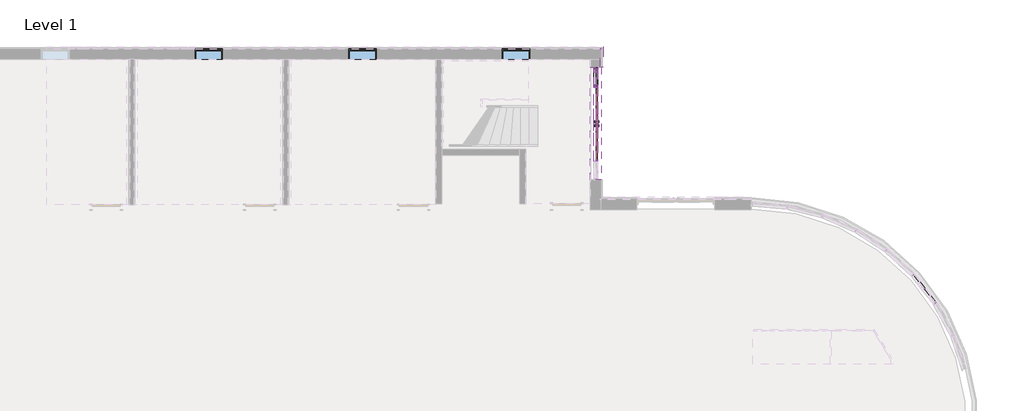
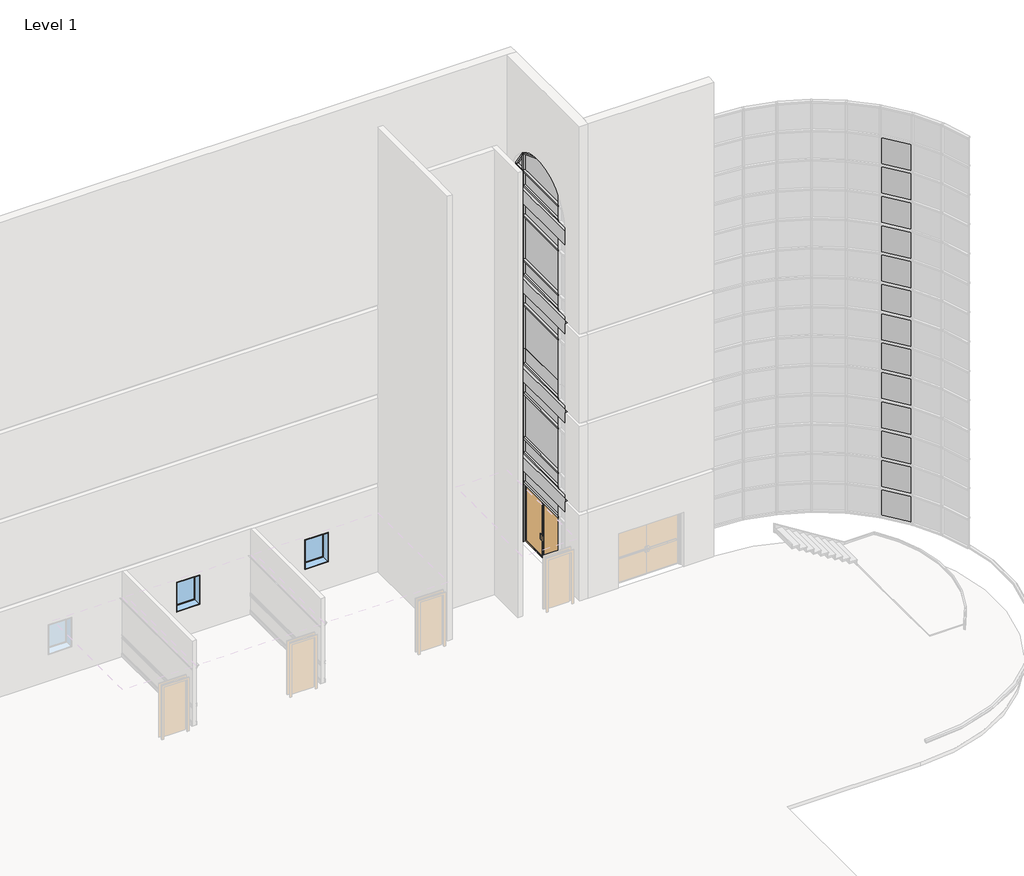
# One storey, part 12 of 20: 58 members, 42 plates, 3 proxies, 3 windows, 1 door.
"""IFC4 building model written with IfcOpenShell, lengths in millimetres."""

from ifc_helpers import new_model, si_unit, frame, origin, place, context, project, spatial, polyline, outline, extrude, transform, mapped, element, save
from components import door_curtain_wall_double_storefront_door_curtain_wall_double_88ba86d8, member_f0fea5a5, member_ee409385, member_caa35c07, member_51170729, member_d60e8053, member_89bfb2f9, member_aaa03826, member_c24abd12, member_55ed3d74, member_94fbf6e3, member_27758863, member_da55b54e, member_0b7646a3, member_dad99500, member_2fae0574, system_panel_glazed_da602fa6, system_panel_glazed_77fd207e, system_panel_glazed_0abf4587, system_panel_glazed_c8e71bd0, system_panel_glazed_bf223ca8, system_panel_glazed_20f89685, system_panel_glazed_orange_a178916c, system_panel_glazed_36969878, system_panel_glazed_a7a8c7fc, system_panel_glazed_38e9afd9, system_panel_glazed_db8a70c9, system_panel_glazed_89dc3443, system_panel_glazed_e97e1c8c, system_panel_glazed_0195c96e, window_15c49d37

model = new_model("IFC4")

# Units and contexts
model_context = context("Model", 3, world=origin())
ifc_project = project(units=[si_unit("LENGTHUNIT", "METRE", prefix="MILLI")], contexts=[model_context])

# Site, building, storey
site = spatial("IfcSite", under=ifc_project)
building = spatial("IfcBuilding", under=site)
storey = spatial("IfcBuildingStorey", under=building, Name="Level 1", Elevation=0.0)

# Proxies
placement = place(None, origin())
element("IfcBuildingElementProxy", 1, Name="Reveals", at=placement, inside=storey, context=model_context, shape_type="SweptSolid", body=[
    extrude(outline(polyline([(13035.7339721, 5418.9898319), (13127.8089721, 5418.9898319), (13127.8089721, 4876.0648319), (13035.7339721, 4783.9898319), (13035.7339721, 5418.9898319)])), frame((0.0, 0.0, 1625.6), z_axis=(0.0, 0.0, 1.0), x_axis=(1.0, 0.0, 0.0)), (0.0, 0.0, 1.0), 67.7333333),
    extrude(outline(polyline([(13035.7339721, 9660.7898319), (13127.8089721, 9752.8648319), (13127.8089721, 9076.5898319), (13035.7339721, 9076.5898319), (13035.7339721, 9660.7898319)])), frame((0.0, 0.0, 1625.6), z_axis=(0.0, 0.0, 1.0), x_axis=(1.0, 0.0, 0.0)), (0.0, 0.0, 1.0), 67.7333333),
])
element("IfcBuildingElementProxy", 2, Name="Reveals", at=placement, inside=storey, context=model_context, shape_type="SweptSolid", body=[
    extrude(outline(polyline([(13035.7339721, 5418.9898319), (13127.8089721, 5418.9898319), (13127.8089721, 4876.0648319), (13035.7339721, 4783.9898319), (13035.7339721, 5418.9898319)])), frame((0.0, 0.0, 2235.2), z_axis=(0.0, 0.0, 1.0), x_axis=(1.0, 0.0, 0.0)), (0.0, 0.0, 1.0), 67.7333333),
    extrude(outline(polyline([(13035.7339721, 9660.7898319), (13127.8089721, 9752.8648319), (13127.8089721, 9076.5898319), (13035.7339721, 9076.5898319), (13035.7339721, 9660.7898319)])), frame((0.0, 0.0, 2235.2), z_axis=(0.0, 0.0, 1.0), x_axis=(1.0, 0.0, 0.0)), (0.0, 0.0, 1.0), 67.7333333),
])
element("IfcBuildingElementProxy", 3, Name="Reveals", at=placement, inside=storey, context=model_context, shape_type="SweptSolid", body=[
    extrude(outline(polyline([(13035.7339721, 5418.9898319), (13127.8089721, 5418.9898319), (13127.8089721, 4876.0648319), (13035.7339721, 4783.9898319), (13035.7339721, 5418.9898319)])), frame((0.0, 0.0, 2844.8), z_axis=(0.0, 0.0, 1.0), x_axis=(1.0, 0.0, 0.0)), (0.0, 0.0, 1.0), 67.7333333),
    extrude(outline(polyline([(13035.7339721, 9660.7898319), (13127.8089721, 9752.8648319), (13127.8089721, 9076.5898319), (13035.7339721, 9076.5898319), (13035.7339721, 9660.7898319)])), frame((0.0, 0.0, 2844.8), z_axis=(0.0, 0.0, 1.0), x_axis=(1.0, 0.0, 0.0)), (0.0, 0.0, 1.0), 67.7333333),
])

# Door
door_curtain_wall_double_storefront_door_curtain_wall_double_shape = door_curtain_wall_double_storefront_door_curtain_wall_double_88ba86d8(model_context)
element("IfcDoor", 4, ObjectType="Door-Curtain-Wall-Double-Storefront : Door-Curtain-Wall-Double-Storefront", at=placement, inside=storey, context=model_context, shape_type="MappedRepresentation", body=[
    mapped(door_curtain_wall_double_storefront_door_curtain_wall_double_shape, transform((12884.9214721, 7247.7898319, 0.0), x_axis=(0.0, 1.0, 0.0), y_axis=(-1.0, 0.0, 0.0), z_axis=(0.0, 0.0, 1.0))),
])

# Members
member_shape = member_f0fea5a5(model_context)
element("IfcMember", 5, ObjectType="Rectangular Mullion : 2.5\" x 5\" rectangular", at=placement, inside=storey, context=model_context, shape_type="MappedRepresentation", body=[
    mapped(member_shape, transform((12884.9214721, 8466.9898319, 0.0), x_axis=(0.0, 1.0, 0.0), y_axis=(1.0, 0.0, 0.0), z_axis=(0.0, 0.0, -1.0))),
])
member_2_shape = member_ee409385(model_context)
element("IfcMember", 6, ObjectType="Rectangular Mullion : 2.5\" x 5\" rectangular", at=placement, inside=storey, context=model_context, shape_type="MappedRepresentation", body=[
    mapped(member_2_shape, transform((12884.9214721, 9076.5898319, 0.0), x_axis=(0.0, 1.0, 0.0), y_axis=(1.0, 0.0, 0.0), z_axis=(0.0, 0.0, -1.0))),
])
member_3_shape = member_caa35c07(model_context)
element("IfcMember", 7, ObjectType="Rectangular Mullion : 2.5\" x 5\" rectangular", at=placement, inside=storey, context=model_context, shape_type="MappedRepresentation", body=[
    mapped(member_3_shape, transform((12884.9214721, 8466.9898319, 15240.0), x_axis=(0.0, 1.0, 0.0), y_axis=(1.0, 0.0, 0.0), z_axis=(0.0, 0.0, -1.0))),
])
member_4_shape = member_51170729(model_context)
element("IfcMember", 8, ObjectType="Rectangular Mullion : 2.5\" x 5\" rectangular", at=placement, inside=storey, context=model_context, shape_type="MappedRepresentation", body=[
    mapped(member_4_shape, transform((12884.9214721, 8466.9898319, 13411.2), x_axis=(0.0, 1.0, 0.0), y_axis=(1.0, 0.0, 0.0), z_axis=(0.0, 0.0, -1.0))),
])
element("IfcMember", 9, ObjectType="Rectangular Mullion : 2.5\" x 5\" rectangular", at=placement, inside=storey, context=model_context, shape_type="MappedRepresentation", body=[
    mapped(member_4_shape, transform((12884.9214721, 8466.9898319, 9753.6), x_axis=(0.0, 1.0, 0.0), y_axis=(1.0, 0.0, 0.0), z_axis=(0.0, 0.0, -1.0))),
])
element("IfcMember", 10, ObjectType="Rectangular Mullion : 2.5\" x 5\" rectangular", at=placement, inside=storey, context=model_context, shape_type="MappedRepresentation", body=[
    mapped(member_4_shape, transform((12884.9214721, 8466.9898319, 6096.0), x_axis=(0.0, 1.0, 0.0), y_axis=(1.0, 0.0, 0.0), z_axis=(0.0, 0.0, -1.0))),
])
element("IfcMember", 11, ObjectType="Rectangular Mullion : 2.5\" x 5\" rectangular", at=placement, inside=storey, context=model_context, shape_type="MappedRepresentation", body=[
    mapped(member_4_shape, transform((12884.9214721, 8466.9898319, 2438.4), x_axis=(0.0, 1.0, 0.0), y_axis=(1.0, 0.0, 0.0), z_axis=(0.0, 0.0, -1.0))),
])
member_5_shape = member_d60e8053(model_context)
element("IfcMember", 12, ObjectType="Rectangular Mullion : 2.5\" x 5\" rectangular", at=placement, inside=storey, context=model_context, shape_type="MappedRepresentation", body=[
    mapped(member_5_shape, transform((12884.9214721, 8466.9898319, 11582.4), x_axis=(0.0, 1.0, 0.0), y_axis=(1.0, 0.0, 0.0), z_axis=(0.0, 0.0, -1.0))),
])
element("IfcMember", 13, ObjectType="Rectangular Mullion : 2.5\" x 5\" rectangular", at=placement, inside=storey, context=model_context, shape_type="MappedRepresentation", body=[
    mapped(member_5_shape, transform((12884.9214721, 8466.9898319, 4267.2), x_axis=(0.0, 1.0, 0.0), y_axis=(1.0, 0.0, 0.0), z_axis=(0.0, 0.0, -1.0))),
])
element("IfcMember", 14, ObjectType="Rectangular Mullion : 2.5\" x 5\" rectangular", at=placement, inside=storey, context=model_context, shape_type="MappedRepresentation", body=[
    mapped(member_5_shape, transform((12884.9214721, 8466.9898319, 7924.8), x_axis=(0.0, 1.0, 0.0), y_axis=(1.0, 0.0, 0.0), z_axis=(0.0, 0.0, -1.0))),
])
element("IfcMember", 15, ObjectType="Rectangular Mullion : 2.5\" x 5\" rectangular", at=placement, inside=storey, context=model_context, shape_type="MappedRepresentation", body=[
    mapped(member_4_shape, transform((12884.9214721, 8466.9898319, 14598.65), x_axis=(0.0, 1.0, 0.0), y_axis=(1.0, 0.0, 0.0), z_axis=(0.0, 0.0, -1.0))),
])
element("IfcMember", 16, ObjectType="Rectangular Mullion : 2.5\" x 5\" rectangular", at=placement, inside=storey, context=model_context, shape_type="MappedRepresentation", body=[
    mapped(member_4_shape, transform((12884.9214721, 8466.9898319, 10941.05), x_axis=(0.0, 1.0, 0.0), y_axis=(1.0, 0.0, 0.0), z_axis=(0.0, 0.0, -1.0))),
])
element("IfcMember", 17, ObjectType="Rectangular Mullion : 2.5\" x 5\" rectangular", at=placement, inside=storey, context=model_context, shape_type="MappedRepresentation", body=[
    mapped(member_4_shape, transform((12884.9214721, 8466.9898319, 3625.85), x_axis=(0.0, 1.0, 0.0), y_axis=(1.0, 0.0, 0.0), z_axis=(0.0, 0.0, -1.0))),
])
element("IfcMember", 18, ObjectType="Rectangular Mullion : 2.5\" x 5\" rectangular", at=placement, inside=storey, context=model_context, shape_type="MappedRepresentation", body=[
    mapped(member_4_shape, transform((12884.9214721, 8466.9898319, 7283.45), x_axis=(0.0, 1.0, 0.0), y_axis=(1.0, 0.0, 0.0), z_axis=(0.0, 0.0, -1.0))),
])
member_6_shape = member_89bfb2f9(model_context)
element("IfcMember", 19, ObjectType="Rectangular Mullion : 2.5\" x 5\" rectangular", at=placement, inside=storey, context=model_context, shape_type="MappedRepresentation", body=[
    mapped(member_6_shape, transform((12884.9214721, 8435.2398319, 2438.4), x_axis=(0.0, 0.0, 1.0), y_axis=(1.0, 0.0, 0.0), z_axis=(0.0, 1.0, 0.0))),
])
element("IfcMember", 20, ObjectType="Rectangular Mullion : 2.5\" x 5\" rectangular", at=placement, inside=storey, context=model_context, shape_type="MappedRepresentation", body=[
    mapped(member_6_shape, transform((12884.9214721, 8435.2398319, 4267.2), x_axis=(0.0, 0.0, 1.0), y_axis=(1.0, 0.0, 0.0), z_axis=(0.0, 1.0, 0.0))),
])
element("IfcMember", 21, ObjectType="Rectangular Mullion : 2.5\" x 5\" rectangular", at=placement, inside=storey, context=model_context, shape_type="MappedRepresentation", body=[
    mapped(member_6_shape, transform((12884.9214721, 8435.2398319, 6096.0), x_axis=(0.0, 0.0, 1.0), y_axis=(1.0, 0.0, 0.0), z_axis=(0.0, 1.0, 0.0))),
])
element("IfcMember", 22, ObjectType="Rectangular Mullion : 2.5\" x 5\" rectangular", at=placement, inside=storey, context=model_context, shape_type="MappedRepresentation", body=[
    mapped(member_6_shape, transform((12884.9214721, 8435.2398319, 7315.2), x_axis=(0.0, 0.0, 1.0), y_axis=(1.0, 0.0, 0.0), z_axis=(0.0, 1.0, 0.0))),
])
element("IfcMember", 23, ObjectType="Rectangular Mullion : 2.5\" x 5\" rectangular", at=placement, inside=storey, context=model_context, shape_type="MappedRepresentation", body=[
    mapped(member_6_shape, transform((12884.9214721, 8435.2398319, 6705.6), x_axis=(0.0, 0.0, 1.0), y_axis=(1.0, 0.0, 0.0), z_axis=(0.0, 1.0, 0.0))),
])
element("IfcMember", 24, ObjectType="Rectangular Mullion : 2.5\" x 5\" rectangular", at=placement, inside=storey, context=model_context, shape_type="MappedRepresentation", body=[
    mapped(member_6_shape, transform((12884.9214721, 8435.2398319, 3657.6), x_axis=(0.0, 0.0, 1.0), y_axis=(1.0, 0.0, 0.0), z_axis=(0.0, 1.0, 0.0))),
])
element("IfcMember", 25, ObjectType="Rectangular Mullion : 2.5\" x 5\" rectangular", at=placement, inside=storey, context=model_context, shape_type="MappedRepresentation", body=[
    mapped(member_6_shape, transform((12884.9214721, 8435.2398319, 3048.0), x_axis=(0.0, 0.0, 1.0), y_axis=(1.0, 0.0, 0.0), z_axis=(0.0, 1.0, 0.0))),
])
element("IfcMember", 26, ObjectType="Rectangular Mullion : 2.5\" x 5\" rectangular", at=placement, inside=storey, context=model_context, shape_type="MappedRepresentation", body=[
    mapped(member_6_shape, transform((12884.9214721, 8435.2398319, 9753.6), x_axis=(0.0, 0.0, 1.0), y_axis=(1.0, 0.0, 0.0), z_axis=(0.0, 1.0, 0.0))),
])
element("IfcMember", 27, ObjectType="Rectangular Mullion : 2.5\" x 5\" rectangular", at=placement, inside=storey, context=model_context, shape_type="MappedRepresentation", body=[
    mapped(member_6_shape, transform((12884.9214721, 8435.2398319, 10363.2), x_axis=(0.0, 0.0, 1.0), y_axis=(1.0, 0.0, 0.0), z_axis=(0.0, 1.0, 0.0))),
])
element("IfcMember", 28, ObjectType="Rectangular Mullion : 2.5\" x 5\" rectangular", at=placement, inside=storey, context=model_context, shape_type="MappedRepresentation", body=[
    mapped(member_6_shape, transform((12884.9214721, 8435.2398319, 10972.8), x_axis=(0.0, 0.0, 1.0), y_axis=(1.0, 0.0, 0.0), z_axis=(0.0, 1.0, 0.0))),
])
element("IfcMember", 29, ObjectType="Rectangular Mullion : 2.5\" x 5\" rectangular", at=placement, inside=storey, context=model_context, shape_type="MappedRepresentation", body=[
    mapped(member_6_shape, transform((12884.9214721, 8435.2398319, 11582.4), x_axis=(0.0, 0.0, 1.0), y_axis=(1.0, 0.0, 0.0), z_axis=(0.0, 1.0, 0.0))),
])
element("IfcMember", 30, ObjectType="Rectangular Mullion : 2.5\" x 5\" rectangular", at=placement, inside=storey, context=model_context, shape_type="MappedRepresentation", body=[
    mapped(member_6_shape, transform((12884.9214721, 8435.2398319, 13411.2), x_axis=(0.0, 0.0, 1.0), y_axis=(1.0, 0.0, 0.0), z_axis=(0.0, 1.0, 0.0))),
])
element("IfcMember", 31, ObjectType="Rectangular Mullion : 2.5\" x 5\" rectangular", at=placement, inside=storey, context=model_context, shape_type="MappedRepresentation", body=[
    mapped(member_6_shape, transform((12884.9214721, 8435.2398319, 14020.8), x_axis=(0.0, 0.0, 1.0), y_axis=(1.0, 0.0, 0.0), z_axis=(0.0, 1.0, 0.0))),
])
element("IfcMember", 32, ObjectType="Rectangular Mullion : 2.5\" x 5\" rectangular", at=placement, inside=storey, context=model_context, shape_type="MappedRepresentation", body=[
    mapped(member_6_shape, transform((12884.9214721, 8435.2398319, 14630.4), x_axis=(0.0, 0.0, 1.0), y_axis=(1.0, 0.0, 0.0), z_axis=(0.0, 1.0, 0.0))),
])
element("IfcMember", 33, ObjectType="Rectangular Mullion : 2.5\" x 5\" rectangular", at=placement, inside=storey, context=model_context, shape_type="MappedRepresentation", body=[
    mapped(member_6_shape, transform((12884.9214721, 8435.2398319, 15240.0), x_axis=(0.0, 0.0, 1.0), y_axis=(1.0, 0.0, 0.0), z_axis=(0.0, 1.0, 0.0))),
])
member_7_shape = member_aaa03826(model_context)
element("IfcMember", 34, ObjectType="Rectangular Mullion : 2.5\" x 5\" rectangular", at=placement, inside=storey, context=model_context, shape_type="MappedRepresentation", body=[
    mapped(member_7_shape, transform((12884.9214721, 9013.0898319, 2438.4), x_axis=(0.0, 0.0, 1.0), y_axis=(1.0, 0.0, 0.0), z_axis=(0.0, 1.0, 0.0))),
])
element("IfcMember", 35, ObjectType="Rectangular Mullion : 2.5\" x 5\" rectangular", at=placement, inside=storey, context=model_context, shape_type="MappedRepresentation", body=[
    mapped(member_7_shape, transform((12884.9214721, 9013.0898319, 4267.2), x_axis=(0.0, 0.0, 1.0), y_axis=(1.0, 0.0, 0.0), z_axis=(0.0, 1.0, 0.0))),
])
element("IfcMember", 36, ObjectType="Rectangular Mullion : 2.5\" x 5\" rectangular", at=placement, inside=storey, context=model_context, shape_type="MappedRepresentation", body=[
    mapped(member_7_shape, transform((12884.9214721, 9013.0898319, 6096.0), x_axis=(0.0, 0.0, 1.0), y_axis=(1.0, 0.0, 0.0), z_axis=(0.0, 1.0, 0.0))),
])
element("IfcMember", 37, ObjectType="Rectangular Mullion : 2.5\" x 5\" rectangular", at=placement, inside=storey, context=model_context, shape_type="MappedRepresentation", body=[
    mapped(member_7_shape, transform((12884.9214721, 9013.0898319, 7315.2), x_axis=(0.0, 0.0, 1.0), y_axis=(1.0, 0.0, 0.0), z_axis=(0.0, 1.0, 0.0))),
])
element("IfcMember", 38, ObjectType="Rectangular Mullion : 2.5\" x 5\" rectangular", at=placement, inside=storey, context=model_context, shape_type="MappedRepresentation", body=[
    mapped(member_7_shape, transform((12884.9214721, 9013.0898319, 6705.6), x_axis=(0.0, 0.0, 1.0), y_axis=(1.0, 0.0, 0.0), z_axis=(0.0, 1.0, 0.0))),
])
element("IfcMember", 39, ObjectType="Rectangular Mullion : 2.5\" x 5\" rectangular", at=placement, inside=storey, context=model_context, shape_type="MappedRepresentation", body=[
    mapped(member_7_shape, transform((12884.9214721, 9013.0898319, 3657.6), x_axis=(0.0, 0.0, 1.0), y_axis=(1.0, 0.0, 0.0), z_axis=(0.0, 1.0, 0.0))),
])
element("IfcMember", 40, ObjectType="Rectangular Mullion : 2.5\" x 5\" rectangular", at=placement, inside=storey, context=model_context, shape_type="MappedRepresentation", body=[
    mapped(member_7_shape, transform((12884.9214721, 9013.0898319, 3048.0), x_axis=(0.0, 0.0, 1.0), y_axis=(1.0, 0.0, 0.0), z_axis=(0.0, 1.0, 0.0))),
])
element("IfcMember", 41, ObjectType="Rectangular Mullion : 2.5\" x 5\" rectangular", at=placement, inside=storey, context=model_context, shape_type="MappedRepresentation", body=[
    mapped(member_7_shape, transform((12884.9214721, 9013.0898319, 9753.6), x_axis=(0.0, 0.0, 1.0), y_axis=(1.0, 0.0, 0.0), z_axis=(0.0, 1.0, 0.0))),
])
element("IfcMember", 42, ObjectType="Rectangular Mullion : 2.5\" x 5\" rectangular", at=placement, inside=storey, context=model_context, shape_type="MappedRepresentation", body=[
    mapped(member_7_shape, transform((12884.9214721, 9013.0898319, 10363.2), x_axis=(0.0, 0.0, 1.0), y_axis=(1.0, 0.0, 0.0), z_axis=(0.0, 1.0, 0.0))),
])
element("IfcMember", 43, ObjectType="Rectangular Mullion : 2.5\" x 5\" rectangular", at=placement, inside=storey, context=model_context, shape_type="MappedRepresentation", body=[
    mapped(member_7_shape, transform((12884.9214721, 9013.0898319, 10972.8), x_axis=(0.0, 0.0, 1.0), y_axis=(1.0, 0.0, 0.0), z_axis=(0.0, 1.0, 0.0))),
])
element("IfcMember", 44, ObjectType="Rectangular Mullion : 2.5\" x 5\" rectangular", at=placement, inside=storey, context=model_context, shape_type="MappedRepresentation", body=[
    mapped(member_7_shape, transform((12884.9214721, 9013.0898319, 11582.4), x_axis=(0.0, 0.0, 1.0), y_axis=(1.0, 0.0, 0.0), z_axis=(0.0, 1.0, 0.0))),
])
element("IfcMember", 45, ObjectType="Rectangular Mullion : 2.5\" x 5\" rectangular", at=placement, inside=storey, context=model_context, shape_type="MappedRepresentation", body=[
    mapped(member_7_shape, transform((12884.9214721, 9013.0898319, 13411.2), x_axis=(0.0, 0.0, 1.0), y_axis=(1.0, 0.0, 0.0), z_axis=(0.0, 1.0, 0.0))),
])
element("IfcMember", 46, ObjectType="Rectangular Mullion : 2.5\" x 5\" rectangular", at=placement, inside=storey, context=model_context, shape_type="MappedRepresentation", body=[
    mapped(member_7_shape, transform((12884.9214721, 9013.0898319, 14020.8), x_axis=(0.0, 0.0, 1.0), y_axis=(1.0, 0.0, 0.0), z_axis=(0.0, 1.0, 0.0))),
])
member_8_shape = member_c24abd12(model_context)
element("IfcMember", 47, ObjectType="Rectangular Mullion : 2.5\" x 5\" rectangular", at=placement, inside=storey, context=model_context, shape_type="MappedRepresentation", body=[
    mapped(member_8_shape, transform((12884.9214721, 9076.5898319, 14630.4), x_axis=(0.0, 0.0, 1.0), y_axis=(1.0, 0.0, 0.0), z_axis=(0.0, 1.0, 0.0))),
])
member_9_shape = member_55ed3d74(model_context)
element("IfcMember", 48, ObjectType="Rectangular Mullion : 2.5\" x 5\" rectangular", at=placement, inside=storey, context=model_context, shape_type="MappedRepresentation", body=[
    mapped(member_9_shape, transform((12884.9214721, 8971.9990072, 15240.0), x_axis=(0.0, 0.0, 1.0), y_axis=(1.0, 0.0, 0.0), z_axis=(0.0, 1.0, 0.0))),
])
member_10_shape = member_94fbf6e3(model_context)
element("IfcMember", 49, ObjectType="Rectangular Mullion : 2.5\" x 5\" rectangular", at=placement, inside=storey, context=model_context, shape_type="MappedRepresentation", body=[
    mapped(member_10_shape, transform((12884.9214721, 8971.9990072, 15240.0), x_axis=(0.0, 0.9428090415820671, 0.33333333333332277), y_axis=(1.0, 0.0, 0.0), z_axis=(0.0, 0.3333333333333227, -0.942809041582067))),
])
member_11_shape = member_27758863(model_context)
element("IfcMember", 50, ObjectType="Rectangular Mullion : 2.5\" x 5\" rectangular", at=placement, inside=storey, context=model_context, shape_type="MappedRepresentation", body=[
    mapped(member_11_shape, transform((12884.9214721, 8466.9898319, 15993.5070391), x_axis=(0.0, 0.6666666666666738, 0.7453559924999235), y_axis=(1.0, 0.0, 0.0), z_axis=(0.0, 0.7453559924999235, -0.6666666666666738))),
])
member_12_shape = member_da55b54e(model_context)
element("IfcMember", 51, ObjectType="Rectangular Mullion : 2.5\" x 5\" rectangular", at=placement, inside=storey, context=model_context, shape_type="MappedRepresentation", body=[
    mapped(member_12_shape, transform((12884.9214721, 9076.5898319, 14630.4), x_axis=(0.0, 1.0, 0.0), y_axis=(1.0, 0.0, 0.0), z_axis=(0.0, 0.0, -1.0))),
])
member_13_shape = member_0b7646a3(model_context)
element("IfcMember", 52, ObjectType="Rectangular Mullion : 2.5\" x 5\" rectangular", at=placement, inside=storey, context=model_context, shape_type="MappedRepresentation", body=[
    mapped(member_13_shape, transform((12884.9214721, 8498.7398319, 0.0), x_axis=(0.0, 0.0, -1.0), y_axis=(1.0, 0.0, 0.0), z_axis=(0.0, -1.0, 0.0))),
])
member_14_shape = member_dad99500(model_context)
element("IfcMember", 53, ObjectType="Rectangular Mullion : 2.5\" x 5\" rectangular", at=placement, inside=storey, context=model_context, shape_type="MappedRepresentation", body=[
    mapped(member_14_shape, transform((12884.9214721, 9076.5898319, 13411.2), x_axis=(0.0, 1.0, 0.0), y_axis=(1.0, 0.0, 0.0), z_axis=(0.0, 0.0, -1.0))),
])
element("IfcMember", 54, ObjectType="Rectangular Mullion : 2.5\" x 5\" rectangular", at=placement, inside=storey, context=model_context, shape_type="MappedRepresentation", body=[
    mapped(member_14_shape, transform((12884.9214721, 9076.5898319, 9753.6), x_axis=(0.0, 1.0, 0.0), y_axis=(1.0, 0.0, 0.0), z_axis=(0.0, 0.0, -1.0))),
])
element("IfcMember", 55, ObjectType="Rectangular Mullion : 2.5\" x 5\" rectangular", at=placement, inside=storey, context=model_context, shape_type="MappedRepresentation", body=[
    mapped(member_14_shape, transform((12884.9214721, 9076.5898319, 6096.0), x_axis=(0.0, 1.0, 0.0), y_axis=(1.0, 0.0, 0.0), z_axis=(0.0, 0.0, -1.0))),
])
element("IfcMember", 56, ObjectType="Rectangular Mullion : 2.5\" x 5\" rectangular", at=placement, inside=storey, context=model_context, shape_type="MappedRepresentation", body=[
    mapped(member_14_shape, transform((12884.9214721, 9076.5898319, 2438.4), x_axis=(0.0, 1.0, 0.0), y_axis=(1.0, 0.0, 0.0), z_axis=(0.0, 0.0, -1.0))),
])
member_15_shape = member_2fae0574(model_context)
element("IfcMember", 57, ObjectType="Rectangular Mullion : 2.5\" x 5\" rectangular", at=placement, inside=storey, context=model_context, shape_type="MappedRepresentation", body=[
    mapped(member_15_shape, transform((12884.9214721, 9076.5898319, 11582.4), x_axis=(0.0, 1.0, 0.0), y_axis=(1.0, 0.0, 0.0), z_axis=(0.0, 0.0, -1.0))),
])
element("IfcMember", 58, ObjectType="Rectangular Mullion : 2.5\" x 5\" rectangular", at=placement, inside=storey, context=model_context, shape_type="MappedRepresentation", body=[
    mapped(member_15_shape, transform((12884.9214721, 9076.5898319, 4267.2), x_axis=(0.0, 1.0, 0.0), y_axis=(1.0, 0.0, 0.0), z_axis=(0.0, 0.0, -1.0))),
])
element("IfcMember", 59, ObjectType="Rectangular Mullion : 2.5\" x 5\" rectangular", at=placement, inside=storey, context=model_context, shape_type="MappedRepresentation", body=[
    mapped(member_14_shape, transform((12884.9214721, 9076.5898319, 10941.05), x_axis=(0.0, 1.0, 0.0), y_axis=(1.0, 0.0, 0.0), z_axis=(0.0, 0.0, -1.0))),
])
element("IfcMember", 60, ObjectType="Rectangular Mullion : 2.5\" x 5\" rectangular", at=placement, inside=storey, context=model_context, shape_type="MappedRepresentation", body=[
    mapped(member_14_shape, transform((12884.9214721, 9076.5898319, 3625.85), x_axis=(0.0, 1.0, 0.0), y_axis=(1.0, 0.0, 0.0), z_axis=(0.0, 0.0, -1.0))),
])
element("IfcMember", 61, ObjectType="Rectangular Mullion : 2.5\" x 5\" rectangular", at=placement, inside=storey, context=model_context, shape_type="MappedRepresentation", body=[
    mapped(member_15_shape, transform((12884.9214721, 9076.5898319, 7924.8), x_axis=(0.0, 1.0, 0.0), y_axis=(1.0, 0.0, 0.0), z_axis=(0.0, 0.0, -1.0))),
])
element("IfcMember", 62, ObjectType="Rectangular Mullion : 2.5\" x 5\" rectangular", at=placement, inside=storey, context=model_context, shape_type="MappedRepresentation", body=[
    mapped(member_14_shape, transform((12884.9214721, 9076.5898319, 7283.45), x_axis=(0.0, 1.0, 0.0), y_axis=(1.0, 0.0, 0.0), z_axis=(0.0, 0.0, -1.0))),
])

# Plates
element("IfcPlate", 63, ObjectType="Exterior - Brick on Mtl. Stud", at=placement, inside=storey, context=model_context, shape_type="SweptSolid", body=[
    extrude(outline(polyline([(13061.1339721, 9076.5898319), (13061.1339721, 5418.9898319), (12708.7089721, 5418.9898319), (12708.7089721, 9076.5898319), (13061.1339721, 9076.5898319)])), frame((0.0, 0.0, 3079.75), z_axis=(0.0, 0.0, 1.0), x_axis=(1.0, 0.0, 0.0)), (0.0, 0.0, 1.0), 546.1),
])
element("IfcPlate", 64, ObjectType="Exterior - Brick on Mtl. Stud", at=placement, inside=storey, context=model_context, shape_type="SweptSolid", body=[
    extrude(outline(polyline([(13061.1339721, 9076.5898319), (13061.1339721, 5418.9898319), (12708.7089721, 5418.9898319), (12708.7089721, 9076.5898319), (13061.1339721, 9076.5898319)])), frame((0.0, 0.0, 6737.35), z_axis=(0.0, 0.0, 1.0), x_axis=(1.0, 0.0, 0.0)), (0.0, 0.0, 1.0), 546.1),
])
element("IfcPlate", 65, ObjectType="Exterior - Brick on Mtl. Stud", at=placement, inside=storey, context=model_context, shape_type="SweptSolid", body=[
    extrude(outline(polyline([(13061.1339721, 9076.5898319), (13061.1339721, 5418.9898319), (12708.7089721, 5418.9898319), (12708.7089721, 9076.5898319), (13061.1339721, 9076.5898319)])), frame((0.0, 0.0, 10394.95), z_axis=(0.0, 0.0, 1.0), x_axis=(1.0, 0.0, 0.0)), (0.0, 0.0, 1.0), 546.1),
])
element("IfcPlate", 66, ObjectType="Exterior - Brick on Mtl. Stud", at=placement, inside=storey, context=model_context, shape_type="SweptSolid", body=[
    extrude(outline(polyline([(13061.1339721, 9076.5898319), (13061.1339721, 5418.9898319), (12708.7089721, 5418.9898319), (12708.7089721, 9076.5898319), (13061.1339721, 9076.5898319)])), frame((0.0, 0.0, 14052.55), z_axis=(0.0, 0.0, 1.0), x_axis=(1.0, 0.0, 0.0)), (0.0, 0.0, 1.0), 546.1),
])
system_panel_glazed_shape = system_panel_glazed_da602fa6(model_context)
element("IfcPlate", 67, ObjectType="System Panel : Glazed", at=placement, inside=storey, context=model_context, shape_type="MappedRepresentation", body=[
    mapped(system_panel_glazed_shape, transform((23552.3563867, 1864.0701985, 1155.7), x_axis=(0.614212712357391, -0.789140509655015, 0.0), y_axis=(0.789140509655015, 0.614212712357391, 0.0), z_axis=(0.0, 0.0, 1.0))),
])
system_panel_glazed_2_shape = system_panel_glazed_77fd207e(model_context)
element("IfcPlate", 68, ObjectType="System Panel : Glazed", at=placement, inside=storey, context=model_context, shape_type="MappedRepresentation", body=[
    mapped(system_panel_glazed_2_shape, transform((23552.3563867, 1864.0701985, 2330.45), x_axis=(0.614212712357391, -0.789140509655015, 0.0), y_axis=(0.789140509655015, 0.614212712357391, 0.0), z_axis=(0.0, 0.0, 1.0))),
])
element("IfcPlate", 69, ObjectType="System Panel : Glazed", at=placement, inside=storey, context=model_context, shape_type="MappedRepresentation", body=[
    mapped(system_panel_glazed_2_shape, transform((23552.3563867, 1864.0701985, 3536.95), x_axis=(0.614212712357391, -0.789140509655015, 0.0), y_axis=(0.789140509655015, 0.614212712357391, 0.0), z_axis=(0.0, 0.0, 1.0))),
])
element("IfcPlate", 70, ObjectType="System Panel : Glazed", at=placement, inside=storey, context=model_context, shape_type="MappedRepresentation", body=[
    mapped(system_panel_glazed_2_shape, transform((23552.3563867, 1864.0701985, 4743.45), x_axis=(0.614212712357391, -0.789140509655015, 0.0), y_axis=(0.789140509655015, 0.614212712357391, 0.0), z_axis=(0.0, 0.0, 1.0))),
])
element("IfcPlate", 71, ObjectType="System Panel : Glazed", at=placement, inside=storey, context=model_context, shape_type="MappedRepresentation", body=[
    mapped(system_panel_glazed_2_shape, transform((23552.3563867, 1864.0701985, 5949.95), x_axis=(0.614212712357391, -0.789140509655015, 0.0), y_axis=(0.789140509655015, 0.614212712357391, 0.0), z_axis=(0.0, 0.0, 1.0))),
])
element("IfcPlate", 72, ObjectType="System Panel : Glazed", at=placement, inside=storey, context=model_context, shape_type="MappedRepresentation", body=[
    mapped(system_panel_glazed_2_shape, transform((23552.3563867, 1864.0701985, 7156.45), x_axis=(0.614212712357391, -0.789140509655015, 0.0), y_axis=(0.789140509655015, 0.614212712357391, 0.0), z_axis=(0.0, 0.0, 1.0))),
])
element("IfcPlate", 73, ObjectType="System Panel : Glazed", at=placement, inside=storey, context=model_context, shape_type="MappedRepresentation", body=[
    mapped(system_panel_glazed_2_shape, transform((23552.3563867, 1864.0701985, 8362.95), x_axis=(0.614212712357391, -0.789140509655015, 0.0), y_axis=(0.789140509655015, 0.614212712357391, 0.0), z_axis=(0.0, 0.0, 1.0))),
])
element("IfcPlate", 74, ObjectType="System Panel : Glazed", at=placement, inside=storey, context=model_context, shape_type="MappedRepresentation", body=[
    mapped(system_panel_glazed_2_shape, transform((23552.3563867, 1864.0701985, 9569.45), x_axis=(0.614212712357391, -0.789140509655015, 0.0), y_axis=(0.789140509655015, 0.614212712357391, 0.0), z_axis=(0.0, 0.0, 1.0))),
])
element("IfcPlate", 75, ObjectType="System Panel : Glazed", at=placement, inside=storey, context=model_context, shape_type="MappedRepresentation", body=[
    mapped(system_panel_glazed_2_shape, transform((23552.3563867, 1864.0701985, 10775.95), x_axis=(0.614212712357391, -0.789140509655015, 0.0), y_axis=(0.789140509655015, 0.614212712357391, 0.0), z_axis=(0.0, 0.0, 1.0))),
])
element("IfcPlate", 76, ObjectType="System Panel : Glazed", at=placement, inside=storey, context=model_context, shape_type="MappedRepresentation", body=[
    mapped(system_panel_glazed_2_shape, transform((23552.3563867, 1864.0701985, 11982.45), x_axis=(0.614212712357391, -0.789140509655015, 0.0), y_axis=(0.789140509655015, 0.614212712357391, 0.0), z_axis=(0.0, 0.0, 1.0))),
])
element("IfcPlate", 77, ObjectType="System Panel : Glazed", at=placement, inside=storey, context=model_context, shape_type="MappedRepresentation", body=[
    mapped(system_panel_glazed_2_shape, transform((23552.3563867, 1864.0701985, 13188.95), x_axis=(0.614212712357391, -0.789140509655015, 0.0), y_axis=(0.789140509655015, 0.614212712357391, 0.0), z_axis=(0.0, 0.0, 1.0))),
])
element("IfcPlate", 78, ObjectType="System Panel : Glazed", at=placement, inside=storey, context=model_context, shape_type="MappedRepresentation", body=[
    mapped(system_panel_glazed_2_shape, transform((23552.3563867, 1864.0701985, 14395.45), x_axis=(0.614212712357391, -0.789140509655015, 0.0), y_axis=(0.789140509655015, 0.614212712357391, 0.0), z_axis=(0.0, 0.0, 1.0))),
])
element("IfcPlate", 79, ObjectType="System Panel : Glazed", at=placement, inside=storey, context=model_context, shape_type="MappedRepresentation", body=[
    mapped(system_panel_glazed_2_shape, transform((23552.3563867, 1864.0701985, 15601.95), x_axis=(0.614212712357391, -0.789140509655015, 0.0), y_axis=(0.789140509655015, 0.614212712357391, 0.0), z_axis=(0.0, 0.0, 1.0))),
])
system_panel_glazed_3_shape = system_panel_glazed_0abf4587(model_context)
element("IfcPlate", 80, ObjectType="System Panel : Glazed", at=placement, inside=storey, context=model_context, shape_type="MappedRepresentation", body=[
    mapped(system_panel_glazed_3_shape, transform((12884.9214721, 8755.9148319, 63.5), x_axis=(0.0, 1.0, 0.0), y_axis=(-1.0, 0.0, 0.0), z_axis=(0.0, 0.0, 1.0))),
])
system_panel_glazed_4_shape = system_panel_glazed_c8e71bd0(model_context)
element("IfcPlate", 81, ObjectType="System Panel : Glazed", at=placement, inside=storey, context=model_context, shape_type="MappedRepresentation", body=[
    mapped(system_panel_glazed_4_shape, transform((12884.9214721, 8755.9148319, 3689.35), x_axis=(0.0, 1.0, 0.0), y_axis=(-1.0, 0.0, 0.0), z_axis=(0.0, 0.0, 1.0))),
])
element("IfcPlate", 82, ObjectType="System Panel : Glazed", at=placement, inside=storey, context=model_context, shape_type="MappedRepresentation", body=[
    mapped(system_panel_glazed_4_shape, transform((12884.9214721, 8755.9148319, 11004.55), x_axis=(0.0, 1.0, 0.0), y_axis=(-1.0, 0.0, 0.0), z_axis=(0.0, 0.0, 1.0))),
])
element("IfcPlate", 83, ObjectType="System Panel : Glazed", at=placement, inside=storey, context=model_context, shape_type="MappedRepresentation", body=[
    mapped(system_panel_glazed_4_shape, transform((12884.9214721, 8755.9148319, 2470.15), x_axis=(0.0, 1.0, 0.0), y_axis=(-1.0, 0.0, 0.0), z_axis=(0.0, 0.0, 1.0))),
])
element("IfcPlate", 84, ObjectType="System Panel : Glazed", at=placement, inside=storey, context=model_context, shape_type="MappedRepresentation", body=[
    mapped(system_panel_glazed_4_shape, transform((12884.9214721, 8755.9148319, 6127.75), x_axis=(0.0, 1.0, 0.0), y_axis=(-1.0, 0.0, 0.0), z_axis=(0.0, 0.0, 1.0))),
])
element("IfcPlate", 85, ObjectType="System Panel : Glazed", at=placement, inside=storey, context=model_context, shape_type="MappedRepresentation", body=[
    mapped(system_panel_glazed_4_shape, transform((12884.9214721, 8755.9148319, 9785.35), x_axis=(0.0, 1.0, 0.0), y_axis=(-1.0, 0.0, 0.0), z_axis=(0.0, 0.0, 1.0))),
])
element("IfcPlate", 86, ObjectType="System Panel : Glazed", at=placement, inside=storey, context=model_context, shape_type="MappedRepresentation", body=[
    mapped(system_panel_glazed_4_shape, transform((12884.9214721, 8755.9148319, 13442.95), x_axis=(0.0, 1.0, 0.0), y_axis=(-1.0, 0.0, 0.0), z_axis=(0.0, 0.0, 1.0))),
])
system_panel_glazed_5_shape = system_panel_glazed_bf223ca8(model_context)
element("IfcPlate", 87, ObjectType="System Panel : Glazed", at=placement, inside=storey, context=model_context, shape_type="MappedRepresentation", body=[
    mapped(system_panel_glazed_5_shape, transform((12884.9214721, 8755.9148319, 7346.95), x_axis=(0.0, 1.0, 0.0), y_axis=(-1.0, 0.0, 0.0), z_axis=(0.0, 0.0, 1.0))),
])
system_panel_glazed_6_shape = system_panel_glazed_20f89685(model_context)
element("IfcPlate", 88, ObjectType="System Panel : Glazed", at=placement, inside=storey, context=model_context, shape_type="MappedRepresentation", body=[
    mapped(system_panel_glazed_6_shape, transform((12884.9214721, 8755.7720596, 14662.15), x_axis=(0.0, 1.0, 0.0), y_axis=(-1.0, 0.0, 0.0), z_axis=(0.0, 0.0, 1.0))),
])
system_panel_glazed_orange_shape = system_panel_glazed_orange_a178916c(model_context)
element("IfcPlate", 89, ObjectType="System Panel : Glazed", at=placement, inside=storey, context=model_context, shape_type="MappedRepresentation", body=[
    mapped(system_panel_glazed_orange_shape, transform((12884.9214721, 7247.7898319, 3689.35), x_axis=(0.0, 1.0, 0.0), y_axis=(-1.0, 0.0, 0.0), z_axis=(0.0, 0.0, 1.0))),
])
element("IfcPlate", 90, ObjectType="System Panel : Glazed", at=placement, inside=storey, context=model_context, shape_type="MappedRepresentation", body=[
    mapped(system_panel_glazed_orange_shape, transform((12884.9214721, 7247.7898319, 11004.55), x_axis=(0.0, 1.0, 0.0), y_axis=(-1.0, 0.0, 0.0), z_axis=(0.0, 0.0, 1.0))),
])
element("IfcPlate", 91, ObjectType="System Panel : Glazed", at=placement, inside=storey, context=model_context, shape_type="MappedRepresentation", body=[
    mapped(system_panel_glazed_orange_shape, transform((12884.9214721, 7247.7898319, 14662.15), x_axis=(0.0, 1.0, 0.0), y_axis=(-1.0, 0.0, 0.0), z_axis=(0.0, 0.0, 1.0))),
])
element("IfcPlate", 92, ObjectType="System Panel : Glazed", at=placement, inside=storey, context=model_context, shape_type="MappedRepresentation", body=[
    mapped(system_panel_glazed_orange_shape, transform((12884.9214721, 7247.7898319, 6127.75), x_axis=(0.0, 1.0, 0.0), y_axis=(-1.0, 0.0, 0.0), z_axis=(0.0, 0.0, 1.0))),
])
element("IfcPlate", 93, ObjectType="System Panel : Glazed", at=placement, inside=storey, context=model_context, shape_type="MappedRepresentation", body=[
    mapped(system_panel_glazed_orange_shape, transform((12884.9214721, 7247.7898319, 9785.35), x_axis=(0.0, 1.0, 0.0), y_axis=(-1.0, 0.0, 0.0), z_axis=(0.0, 0.0, 1.0))),
])
element("IfcPlate", 94, ObjectType="System Panel : Glazed", at=placement, inside=storey, context=model_context, shape_type="MappedRepresentation", body=[
    mapped(system_panel_glazed_orange_shape, transform((12884.9214721, 7247.7898319, 13442.95), x_axis=(0.0, 1.0, 0.0), y_axis=(-1.0, 0.0, 0.0), z_axis=(0.0, 0.0, 1.0))),
])
system_panel_glazed_7_shape = system_panel_glazed_36969878(model_context)
element("IfcPlate", 95, ObjectType="System Panel : Glazed", at=placement, inside=storey, context=model_context, shape_type="MappedRepresentation", body=[
    mapped(system_panel_glazed_7_shape, transform((12884.9214721, 7247.7898319, 7346.95), x_axis=(0.0, 1.0, 0.0), y_axis=(-1.0, 0.0, 0.0), z_axis=(0.0, 0.0, 1.0))),
])
system_panel_glazed_8_shape = system_panel_glazed_a7a8c7fc(model_context)
element("IfcPlate", 96, ObjectType="System Panel : Glazed", at=placement, inside=storey, context=model_context, shape_type="MappedRepresentation", body=[
    mapped(system_panel_glazed_8_shape, transform((12884.9214721, 8755.9148319, 4298.95), x_axis=(0.0, 1.0, 0.0), y_axis=(-1.0, 0.0, 0.0), z_axis=(0.0, 0.0, 1.0))),
])
element("IfcPlate", 97, ObjectType="System Panel : Glazed", at=placement, inside=storey, context=model_context, shape_type="MappedRepresentation", body=[
    mapped(system_panel_glazed_8_shape, transform((12884.9214721, 8755.9148319, 11614.15), x_axis=(0.0, 1.0, 0.0), y_axis=(-1.0, 0.0, 0.0), z_axis=(0.0, 0.0, 1.0))),
])
system_panel_glazed_9_shape = system_panel_glazed_38e9afd9(model_context)
element("IfcPlate", 98, ObjectType="System Panel : Glazed", at=placement, inside=storey, context=model_context, shape_type="MappedRepresentation", body=[
    mapped(system_panel_glazed_9_shape, transform((12884.9214721, 7247.7898319, 4298.95), x_axis=(0.0, 1.0, 0.0), y_axis=(-1.0, 0.0, 0.0), z_axis=(0.0, 0.0, 1.0))),
])
element("IfcPlate", 99, ObjectType="System Panel : Glazed", at=placement, inside=storey, context=model_context, shape_type="MappedRepresentation", body=[
    mapped(system_panel_glazed_9_shape, transform((12884.9214721, 7247.7898319, 11614.15), x_axis=(0.0, 1.0, 0.0), y_axis=(-1.0, 0.0, 0.0), z_axis=(0.0, 0.0, 1.0))),
])
system_panel_glazed_10_shape = system_panel_glazed_db8a70c9(model_context)
element("IfcPlate", 100, ObjectType="System Panel : Glazed", at=placement, inside=storey, context=model_context, shape_type="MappedRepresentation", body=[
    mapped(system_panel_glazed_10_shape, transform((12884.9214721, 8755.9148319, 7924.8), x_axis=(0.0, 1.0, 0.0), y_axis=(-1.0, 0.0, 0.0), z_axis=(0.0, 0.0, 1.0))),
])
system_panel_glazed_11_shape = system_panel_glazed_89dc3443(model_context)
element("IfcPlate", 101, ObjectType="System Panel : Glazed", at=placement, inside=storey, context=model_context, shape_type="MappedRepresentation", body=[
    mapped(system_panel_glazed_11_shape, transform((12884.9214721, 7247.7898319, 7924.8), x_axis=(0.0, 1.0, 0.0), y_axis=(-1.0, 0.0, 0.0), z_axis=(0.0, 0.0, 1.0))),
])
system_panel_glazed_12_shape = system_panel_glazed_e97e1c8c(model_context)
element("IfcPlate", 102, ObjectType="System Panel : Glazed", at=placement, inside=storey, context=model_context, shape_type="MappedRepresentation", body=[
    mapped(system_panel_glazed_12_shape, transform((12884.9214721, 7247.7898319, 15271.75), x_axis=(0.0, 1.0, 0.0), y_axis=(-1.0, 0.0, 0.0), z_axis=(0.0, 0.0, 1.0))),
])
system_panel_glazed_13_shape = system_panel_glazed_0195c96e(model_context)
element("IfcPlate", 103, ObjectType="System Panel : Glazed", at=placement, inside=storey, context=model_context, shape_type="MappedRepresentation", body=[
    mapped(system_panel_glazed_13_shape, transform((12884.9214721, 8695.6020905, 15271.75), x_axis=(0.0, 1.0, 0.0), y_axis=(-1.0, 0.0, 0.0), z_axis=(0.0, 0.0, 1.0))),
])
element("IfcPlate", 104, ObjectType="System Panel : Glazed Orange", at=placement, inside=storey, context=model_context, shape_type="MappedRepresentation", body=[
    mapped(system_panel_glazed_orange_shape, transform((12884.9214721, 7247.7898319, 2470.15), x_axis=(0.0, 1.0, 0.0), y_axis=(-1.0, 0.0, 0.0), z_axis=(0.0, 0.0, 1.0))),
])

# Windows
window_shape = window_15c49d37(model_context)
element("IfcWindow", 105, ObjectType="Fixed : 36\" x 48\"", at=placement, inside=storey, context=model_context, shape_type="MappedRepresentation", body=[
    mapped(window_shape, transform((355.3131388, 9509.9773319, 177.8), x_axis=(1.0, 0.0, 0.0), y_axis=(0.0, 1.0, 0.0), z_axis=(0.0, 0.0, 1.0))),
])
element("IfcWindow", 106, ObjectType="Fixed : 36\" x 48\"", at=placement, inside=storey, context=model_context, shape_type="MappedRepresentation", body=[
    mapped(window_shape, transform((5347.4714721, 9509.9773319, 177.8), x_axis=(1.0, 0.0, 0.0), y_axis=(0.0, 1.0, 0.0), z_axis=(0.0, 0.0, 1.0))),
])
element("IfcWindow", 107, ObjectType="Fixed : 36\" x 48\"", at=placement, inside=storey, context=model_context, shape_type="MappedRepresentation", body=[
    mapped(window_shape, transform((10334.0735554, 9509.9773319, 177.8), x_axis=(1.0, 0.0, 0.0), y_axis=(0.0, 1.0, 0.0), z_axis=(0.0, 0.0, 1.0))),
])

save(model, "model.ifc")
